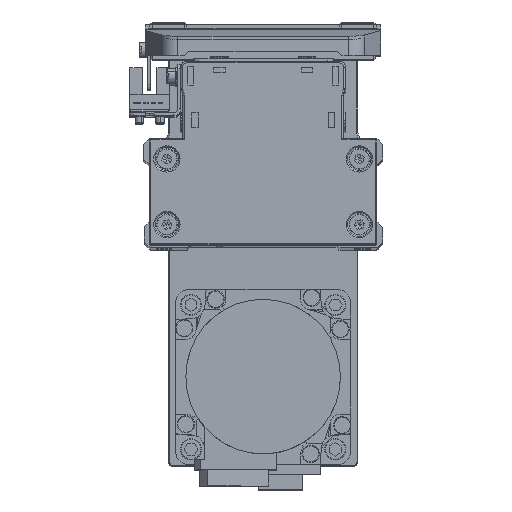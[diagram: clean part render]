
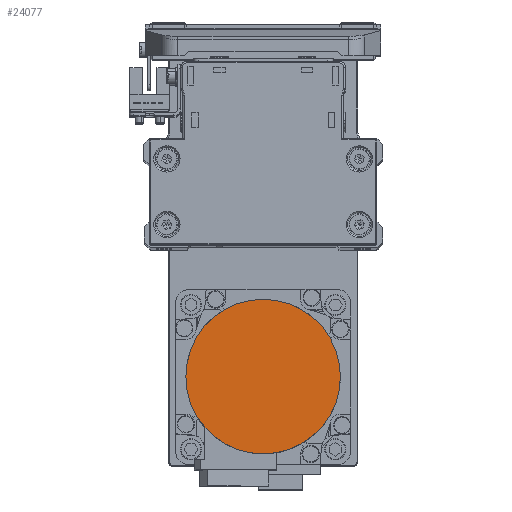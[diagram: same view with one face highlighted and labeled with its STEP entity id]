
A CAD part, top view. The second image highlights one B-rep face of the part: STEP entity #24077.
In plain terms, the highlighted planar face has unit normal (0, 0, 1) as drawn and (0, 0, -1) by its records, which use the part's own axes.
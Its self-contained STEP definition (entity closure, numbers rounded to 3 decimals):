
#618 = CIRCLE ( 'NONE', #23548, 26.5 ) ;
#1034 = EDGE_LOOP ( 'NONE', ( #8952, #5616 ) ) ;
#2775 = EDGE_CURVE ( 'NONE', #29732, #5528, #618, .T. ) ;
#5528 = VERTEX_POINT ( 'NONE', #6136 ) ;
#5616 = ORIENTED_EDGE ( 'NONE', *, *, #13788, .F. ) ;
#6136 = CARTESIAN_POINT ( 'NONE',  ( 26.5, 0., -109.7 ) ) ;
#8952 = ORIENTED_EDGE ( 'NONE', *, *, #2775, .F. ) ;
#10026 = CARTESIAN_POINT ( 'NONE',  ( 0., 0., -109.7 ) ) ;
#12186 = CARTESIAN_POINT ( 'NONE',  ( 0., 0., -109.7 ) ) ;
#12915 = CARTESIAN_POINT ( 'NONE',  ( 0., 0., -109.7 ) ) ;
#13788 = EDGE_CURVE ( 'NONE', #5528, #29732, #38497, .T. ) ;
#20814 = AXIS2_PLACEMENT_3D ( 'NONE', #12186, #24710, #37215 ) ;
#22543 = DIRECTION ( 'NONE',  ( 0., 0., 1. ) ) ;
#23548 = AXIS2_PLACEMENT_3D ( 'NONE', #12915, #25432, #37945 ) ;
#24077 = ADVANCED_FACE ( 'NONE', ( #25624 ), #38133, .F. ) ;
#24710 = DIRECTION ( 'NONE',  ( 0., 0., 1. ) ) ;
#25432 = DIRECTION ( 'NONE',  ( 0., 0., 1. ) ) ;
#25624 = FACE_OUTER_BOUND ( 'NONE', #1034, .T. ) ;
#27772 = AXIS2_PLACEMENT_3D ( 'NONE', #10026, #22543, #35063 ) ;
#29732 = VERTEX_POINT ( 'NONE', #33539 ) ;
#33539 = CARTESIAN_POINT ( 'NONE',  ( -26.5, 0., -109.7 ) ) ;
#35063 = DIRECTION ( 'NONE',  ( 1., 0., 0. ) ) ;
#37215 = DIRECTION ( 'NONE',  ( 1., 0., 0. ) ) ;
#37945 = DIRECTION ( 'NONE',  ( -1., 0., 0. ) ) ;
#38133 = PLANE ( 'NONE',  #27772 ) ;
#38497 = CIRCLE ( 'NONE', #20814, 26.5 ) ;
